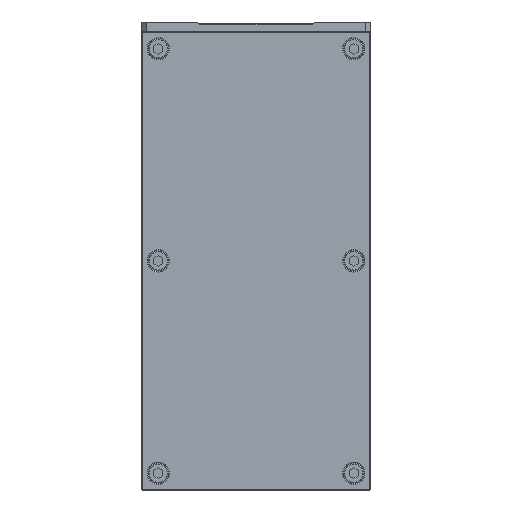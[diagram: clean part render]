
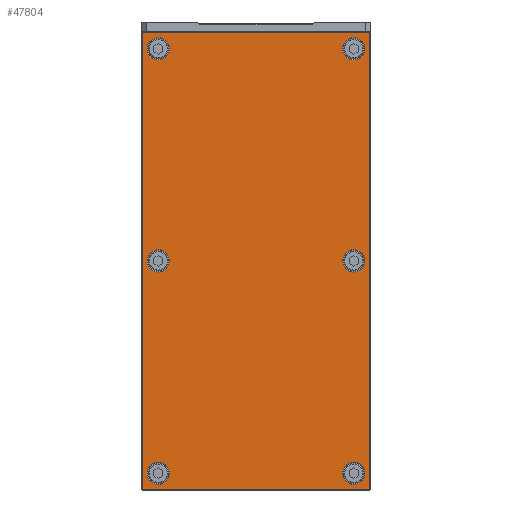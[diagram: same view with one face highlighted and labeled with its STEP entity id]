
A CAD part, front view. The second image highlights one B-rep face of the part: STEP entity #47804.
In plain terms, the highlighted planar face has unit normal (0, -1, 0).
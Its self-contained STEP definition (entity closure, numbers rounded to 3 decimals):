
#46363=CARTESIAN_POINT('',(149.,-9.,-74.));
#46364=DIRECTION('',(0.,-1.,0.));
#46365=DIRECTION('',(0.,0.,-1.));
#46366=AXIS2_PLACEMENT_3D('',#46363,#46364,#46365);
#46368=DIRECTION('',(1.,0.,0.));
#46369=VECTOR('',#46368,298.);
#46370=CARTESIAN_POINT('',(-149.,-9.,
-74.5));
#46371=LINE('',#46370,#46369);
#46372=CARTESIAN_POINT('',(-149.,-9.,-74.));
#46373=DIRECTION('',(0.,-1.,0.));
#46374=DIRECTION('',(-1.,0.,0.));
#46375=AXIS2_PLACEMENT_3D('',#46372,#46373,#46374);
#46377=DIRECTION('',(0.,0.,-1.));
#46378=VECTOR('',#46377,148.);
#46379=CARTESIAN_POINT('',(-149.5,-9.,74.));
#46380=LINE('',#46379,#46378);
#46381=CARTESIAN_POINT('',(-149.,-9.,74.));
#46382=DIRECTION('',(0.,-1.,0.));
#46383=DIRECTION('',(0.,0.,1.));
#46384=AXIS2_PLACEMENT_3D('',#46381,#46382,#46383);
#46386=DIRECTION('',(-1.,0.,0.));
#46387=VECTOR('',#46386,298.);
#46388=CARTESIAN_POINT('',(149.,-9.,
74.5));
#46389=LINE('',#46388,#46387);
#46390=CARTESIAN_POINT('',(149.,-9.,74.));
#46391=DIRECTION('',(0.,-1.,0.));
#46392=DIRECTION('',(1.,0.,0.));
#46393=AXIS2_PLACEMENT_3D('',#46390,#46391,#46392);
#46395=DIRECTION('',(0.,0.,1.));
#46396=VECTOR('',#46395,148.);
#46397=CARTESIAN_POINT('',(149.5,-9.,-74.));
#46398=LINE('',#46397,#46396);
#46399=CARTESIAN_POINT('',(-139.,-9.,-64.));
#46400=DIRECTION('',(0.,1.,0.));
#46401=DIRECTION('',(1.,0.,0.));
#46402=AXIS2_PLACEMENT_3D('',#46399,#46400,#46401);
#46404=CARTESIAN_POINT('',(-139.,-9.,-64.));
#46405=DIRECTION('',(0.,1.,0.));
#46406=DIRECTION('',(-1.,0.,0.));
#46407=AXIS2_PLACEMENT_3D('',#46404,#46405,#46406);
#46409=CARTESIAN_POINT('',(0.,-9.,-64.));
#46410=DIRECTION('',(0.,1.,0.));
#46411=DIRECTION('',(1.,0.,0.));
#46412=AXIS2_PLACEMENT_3D('',#46409,#46410,#46411);
#46414=CARTESIAN_POINT('',(0.,-9.,-64.));
#46415=DIRECTION('',(0.,1.,0.));
#46416=DIRECTION('',(-1.,0.,0.));
#46417=AXIS2_PLACEMENT_3D('',#46414,#46415,#46416);
#46419=CARTESIAN_POINT('',(139.,-9.,-64.));
#46420=DIRECTION('',(0.,1.,0.));
#46421=DIRECTION('',(1.,0.,0.));
#46422=AXIS2_PLACEMENT_3D('',#46419,#46420,#46421);
#46424=CARTESIAN_POINT('',(139.,-9.,-64.));
#46425=DIRECTION('',(0.,1.,0.));
#46426=DIRECTION('',(-1.,0.,0.));
#46427=AXIS2_PLACEMENT_3D('',#46424,#46425,#46426);
#46429=CARTESIAN_POINT('',(139.,-9.,64.));
#46430=DIRECTION('',(0.,1.,0.));
#46431=DIRECTION('',(1.,0.,0.));
#46432=AXIS2_PLACEMENT_3D('',#46429,#46430,#46431);
#46434=CARTESIAN_POINT('',(139.,-9.,64.));
#46435=DIRECTION('',(0.,1.,0.));
#46436=DIRECTION('',(-1.,0.,0.));
#46437=AXIS2_PLACEMENT_3D('',#46434,#46435,#46436);
#46439=CARTESIAN_POINT('',(0.,-9.,64.));
#46440=DIRECTION('',(0.,1.,0.));
#46441=DIRECTION('',(1.,0.,0.));
#46442=AXIS2_PLACEMENT_3D('',#46439,#46440,#46441);
#46444=CARTESIAN_POINT('',(0.,-9.,64.));
#46445=DIRECTION('',(0.,1.,0.));
#46446=DIRECTION('',(-1.,0.,0.));
#46447=AXIS2_PLACEMENT_3D('',#46444,#46445,#46446);
#46449=CARTESIAN_POINT('',(-139.,-9.,64.));
#46450=DIRECTION('',(0.,1.,0.));
#46451=DIRECTION('',(1.,0.,0.));
#46452=AXIS2_PLACEMENT_3D('',#46449,#46450,#46451);
#46454=CARTESIAN_POINT('',(-139.,-9.,64.));
#46455=DIRECTION('',(0.,1.,0.));
#46456=DIRECTION('',(-1.,0.,0.));
#46457=AXIS2_PLACEMENT_3D('',#46454,#46455,#46456);
#47533=CARTESIAN_POINT('',(149.,-9.,-74.5));
#47534=CARTESIAN_POINT('',(149.5,-9.,-74.));
#47535=VERTEX_POINT('',#47533);
#47536=VERTEX_POINT('',#47534);
#47541=CARTESIAN_POINT('',(149.5,-9.,
74.));
#47542=VERTEX_POINT('',#47541);
#47545=CARTESIAN_POINT('',(149.,-9.,74.5));
#47546=VERTEX_POINT('',#47545);
#47549=CARTESIAN_POINT('',(-149.,-9.,
74.5));
#47550=VERTEX_POINT('',#47549);
#47553=CARTESIAN_POINT('',(-149.5,-9.,74.));
#47554=VERTEX_POINT('',#47553);
#47557=CARTESIAN_POINT('',(-149.5,-9.,
-74.));
#47558=VERTEX_POINT('',#47557);
#47561=CARTESIAN_POINT('',(-149.,-9.,-74.5));
#47562=VERTEX_POINT('',#47561);
#47589=CARTESIAN_POINT('',(-131.7,-9.,-64.));
#47590=CARTESIAN_POINT('',(-146.3,-9.,-64.));
#47591=VERTEX_POINT('',#47589);
#47592=VERTEX_POINT('',#47590);
#47605=CARTESIAN_POINT('',(7.3,-9.,-64.));
#47606=CARTESIAN_POINT('',(-7.3,-9.,-64.));
#47607=VERTEX_POINT('',#47605);
#47608=VERTEX_POINT('',#47606);
#47629=CARTESIAN_POINT('',(146.3,-9.,-64.));
#47630=CARTESIAN_POINT('',(131.7,-9.,-64.));
#47631=VERTEX_POINT('',#47629);
#47632=VERTEX_POINT('',#47630);
#47645=CARTESIAN_POINT('',(146.3,-9.,64.));
#47646=CARTESIAN_POINT('',(131.7,-9.,64.));
#47647=VERTEX_POINT('',#47645);
#47648=VERTEX_POINT('',#47646);
#47653=CARTESIAN_POINT('',(7.3,-9.,64.));
#47654=CARTESIAN_POINT('',(-7.3,-9.,64.));
#47655=VERTEX_POINT('',#47653);
#47656=VERTEX_POINT('',#47654);
#47677=CARTESIAN_POINT('',(-131.7,-9.,64.));
#47678=CARTESIAN_POINT('',(-146.3,-9.,64.));
#47679=VERTEX_POINT('',#47677);
#47680=VERTEX_POINT('',#47678);
#47745=CARTESIAN_POINT('',(0.,-9.,0.));
#47746=DIRECTION('',(0.,1.,0.));
#47747=DIRECTION('',(1.,0.,0.));
#47748=AXIS2_PLACEMENT_3D('',#47745,#47746,#47747);
#47749=PLANE('',#47748);
#47751=ORIENTED_EDGE('',*,*,#47750,.F.);
#47753=ORIENTED_EDGE('',*,*,#47752,.F.);
#47755=ORIENTED_EDGE('',*,*,#47754,.F.);
#47757=ORIENTED_EDGE('',*,*,#47756,.F.);
#47759=ORIENTED_EDGE('',*,*,#47758,.F.);
#47761=ORIENTED_EDGE('',*,*,#47760,.F.);
#47763=ORIENTED_EDGE('',*,*,#47762,.F.);
#47765=ORIENTED_EDGE('',*,*,#47764,.F.);
#47766=EDGE_LOOP('',(#47751,#47753,#47755,#47757,#47759,#47761,#47763,#47765));
#47767=FACE_OUTER_BOUND('',#47766,.F.);
#47769=ORIENTED_EDGE('',*,*,#47768,.F.);
#47771=ORIENTED_EDGE('',*,*,#47770,.F.);
#47772=EDGE_LOOP('',(#47769,#47771));
#47773=FACE_BOUND('',#47772,.F.);
#47775=ORIENTED_EDGE('',*,*,#47774,.F.);
#47777=ORIENTED_EDGE('',*,*,#47776,.F.);
#47778=EDGE_LOOP('',(#47775,#47777));
#47779=FACE_BOUND('',#47778,.F.);
#47781=ORIENTED_EDGE('',*,*,#47780,.F.);
#47783=ORIENTED_EDGE('',*,*,#47782,.F.);
#47784=EDGE_LOOP('',(#47781,#47783));
#47785=FACE_BOUND('',#47784,.F.);
#47787=ORIENTED_EDGE('',*,*,#47786,.F.);
#47789=ORIENTED_EDGE('',*,*,#47788,.F.);
#47790=EDGE_LOOP('',(#47787,#47789));
#47791=FACE_BOUND('',#47790,.F.);
#47793=ORIENTED_EDGE('',*,*,#47792,.F.);
#47795=ORIENTED_EDGE('',*,*,#47794,.F.);
#47796=EDGE_LOOP('',(#47793,#47795));
#47797=FACE_BOUND('',#47796,.F.);
#47799=ORIENTED_EDGE('',*,*,#47798,.F.);
#47801=ORIENTED_EDGE('',*,*,#47800,.F.);
#47802=EDGE_LOOP('',(#47799,#47801));
#47803=FACE_BOUND('',#47802,.F.);
#47804=ADVANCED_FACE('',(#47767,#47773,#47779,#47785,#47791,#47797,#47803),
#47749,.F.);
#46367=CIRCLE('',#46366,0.5);
#46376=CIRCLE('',#46375,0.5);
#46385=CIRCLE('',#46384,0.5);
#46394=CIRCLE('',#46393,0.5);
#46403=CIRCLE('',#46402,7.3);
#46408=CIRCLE('',#46407,7.3);
#46413=CIRCLE('',#46412,7.3);
#46418=CIRCLE('',#46417,7.3);
#46423=CIRCLE('',#46422,7.3);
#46428=CIRCLE('',#46427,7.3);
#46433=CIRCLE('',#46432,7.3);
#46438=CIRCLE('',#46437,7.3);
#46443=CIRCLE('',#46442,7.3);
#46448=CIRCLE('',#46447,7.3);
#46453=CIRCLE('',#46452,7.3);
#46458=CIRCLE('',#46457,7.3);
#47750=EDGE_CURVE('',#47535,#47536,#46367,.T.);
#47752=EDGE_CURVE('',#47562,#47535,#46371,.T.);
#47754=EDGE_CURVE('',#47558,#47562,#46376,.T.);
#47756=EDGE_CURVE('',#47554,#47558,#46380,.T.);
#47758=EDGE_CURVE('',#47550,#47554,#46385,.T.);
#47760=EDGE_CURVE('',#47546,#47550,#46389,.T.);
#47762=EDGE_CURVE('',#47542,#47546,#46394,.T.);
#47764=EDGE_CURVE('',#47536,#47542,#46398,.T.);
#47768=EDGE_CURVE('',#47591,#47592,#46403,.T.);
#47770=EDGE_CURVE('',#47592,#47591,#46408,.T.);
#47774=EDGE_CURVE('',#47607,#47608,#46413,.T.);
#47776=EDGE_CURVE('',#47608,#47607,#46418,.T.);
#47780=EDGE_CURVE('',#47631,#47632,#46423,.T.);
#47782=EDGE_CURVE('',#47632,#47631,#46428,.T.);
#47786=EDGE_CURVE('',#47647,#47648,#46433,.T.);
#47788=EDGE_CURVE('',#47648,#47647,#46438,.T.);
#47792=EDGE_CURVE('',#47655,#47656,#46443,.T.);
#47794=EDGE_CURVE('',#47656,#47655,#46448,.T.);
#47798=EDGE_CURVE('',#47679,#47680,#46453,.T.);
#47800=EDGE_CURVE('',#47680,#47679,#46458,.T.);
